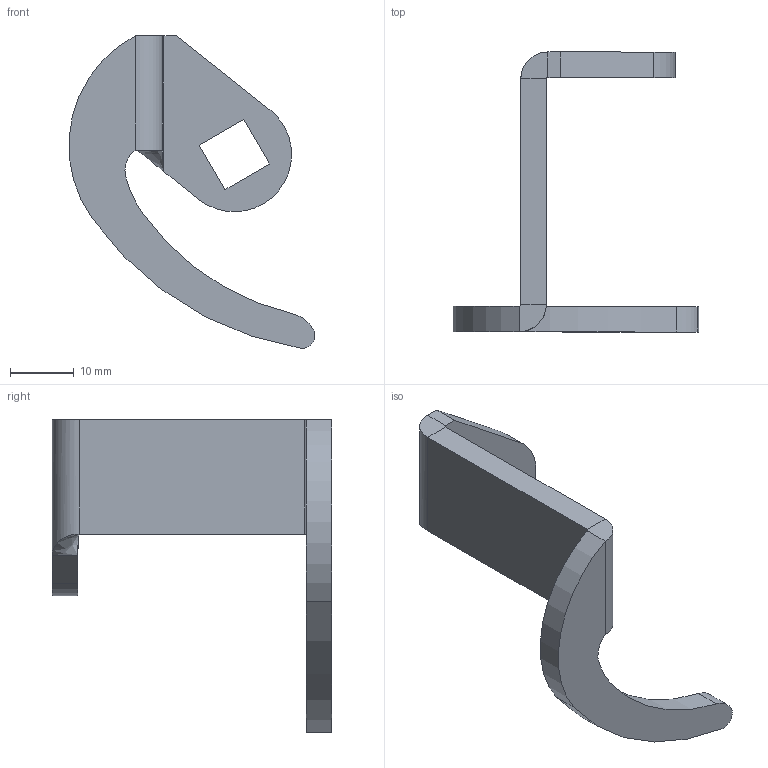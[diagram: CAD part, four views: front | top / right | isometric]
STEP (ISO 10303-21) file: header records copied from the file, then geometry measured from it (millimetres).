
FILE_DESCRIPTION (( 'STEP AP214' ), '1' );
FILE_NAME ('1C.J-6000.02.STEP', '2016-08-17T12:16:10', ( 'RST-Dolba' ), ( '' ), 'SwSTEP 2.0', 'SolidWorks 2015', '' );
FILE_SCHEMA (( 'AUTOMOTIVE_DESIGN' ));
Length unit declared in the file: millimetre
Products named in the file (1): 1C.J-6000.02
Bounding box: 38.67 x 44 x 49.19 mm (x, y, z)
Volume: 6089.4 mm3; surface area: 4233.3 mm2
Topology: 1 solids, 1 shells, 34 faces, 80 edges, 48 vertices
Faces by surface type: plane 18, cylinder 15, bspline 1
Entity records: 1025 total; most frequent: CARTESIAN_POINT 196, DIRECTION 174, ORIENTED_EDGE 160, EDGE_CURVE 80, AXIS2_PLACEMENT_3D 62, LINE 50, VECTOR 50, VERTEX_POINT 48
